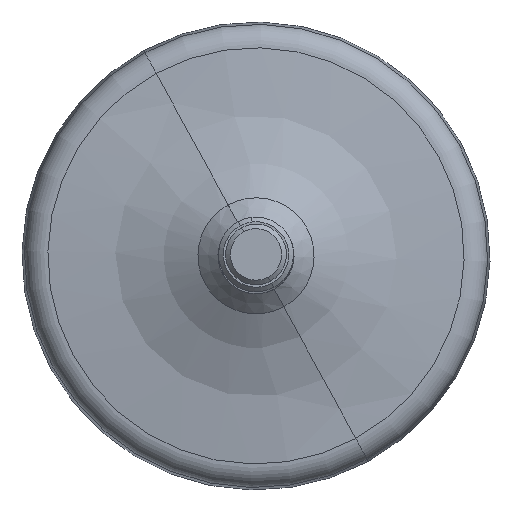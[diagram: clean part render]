
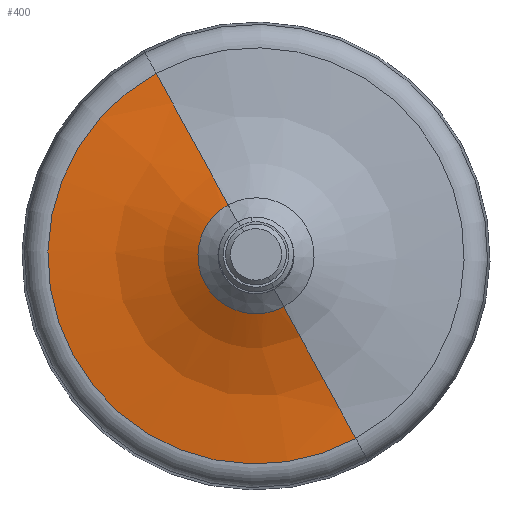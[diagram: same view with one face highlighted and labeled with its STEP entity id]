
A CAD part, top view. The second image highlights one B-rep face of the part: STEP entity #400.
In plain terms, the highlighted face is a revolution surface.
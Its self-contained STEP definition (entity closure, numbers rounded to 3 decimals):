
#238=CARTESIAN_POINT('Vertex',(-4.794,8.776,29.559)) ;
#245=CARTESIAN_POINT('Vertex',(4.794,-8.776,29.559)) ;
#265=CARTESIAN_POINT('Axis2P3D Location',(0.,0.,29.559)) ;
#350=CARTESIAN_POINT('Control Point',(-4.794,8.776,29.559)) ;
#351=CARTESIAN_POINT('Control Point',(-8.498,15.555,24.83)) ;
#352=CARTESIAN_POINT('Control Point',(-12.623,23.107,21.537)) ;
#353=CARTESIAN_POINT('Control Point',(-16.973,31.069,19.927)) ;
#354=CARTESIAN_POINT('Control Point',(-21.315,39.017,20.)) ;
#355=CARTESIAN_POINT('Vertex',(-21.315,39.017,20.)) ;
#359=CARTESIAN_POINT('Control Point',(4.794,-8.776,29.559)) ;
#360=CARTESIAN_POINT('Control Point',(8.498,-15.555,24.83)) ;
#361=CARTESIAN_POINT('Control Point',(12.623,-23.107,21.537)) ;
#362=CARTESIAN_POINT('Control Point',(16.973,-31.069,19.927)) ;
#363=CARTESIAN_POINT('Control Point',(21.315,-39.017,20.)) ;
#364=CARTESIAN_POINT('Vertex',(21.315,-39.017,20.)) ;
#380=CARTESIAN_POINT('Control Point',(-4.794,8.776,29.559)) ;
#381=CARTESIAN_POINT('Control Point',(-8.498,15.555,24.83)) ;
#382=CARTESIAN_POINT('Control Point',(-12.623,23.107,21.537)) ;
#383=CARTESIAN_POINT('Control Point',(-16.973,31.069,19.927)) ;
#384=CARTESIAN_POINT('Control Point',(-21.315,39.017,20.)) ;
#385=CARTESIAN_POINT('Axis1P Location',(0.,0.,84.998)) ;
#389=CARTESIAN_POINT('Axis2P3D Location',(0.,0.,20.)) ;
#266=DIRECTION('Axis2P3D Direction',(0.,0.,1.)) ;
#386=DIRECTION('Axis1P Direction',(0.,-0.,-1.)) ;
#390=DIRECTION('Axis2P3D Direction',(0.,-0.,-1.)) ;
#267=AXIS2_PLACEMENT_3D('Circle Axis2P3D',#265,#266,$) ;
#391=AXIS2_PLACEMENT_3D('Circle Axis2P3D',#389,#390,$) ;
#395=ORIENTED_EDGE('',*,*,#366,.T.) ;
#396=ORIENTED_EDGE('',*,*,#269,.F.) ;
#397=ORIENTED_EDGE('',*,*,#357,.F.) ;
#398=ORIENTED_EDGE('',*,*,#393,.T.) ;
#400=ADVANCED_FACE('PartBody',(#399),#388,.T.) ;
#387=AXIS1_PLACEMENT('Revolution Surface Axis1P',#385,#386) ;
#349=B_SPLINE_CURVE_WITH_KNOTS('',4,(#350,#351,#352,#353,#354),.UNSPECIFIED.,.F.,.U.,(5,5),(-137.804,-101.261),.UNSPECIFIED.) ;
#358=B_SPLINE_CURVE_WITH_KNOTS('',4,(#359,#360,#361,#362,#363),.UNSPECIFIED.,.F.,.U.,(5,5),(-137.804,-101.261),.UNSPECIFIED.) ;
#379=B_SPLINE_CURVE_WITH_KNOTS('',4,(#380,#381,#382,#383,#384),.UNSPECIFIED.,.F.,.U.,(5,5),(-137.804,-101.261),.UNSPECIFIED.) ;
#268=CIRCLE('generated circle',#267,10.) ;
#392=CIRCLE('generated circle',#391,44.46) ;
#269=EDGE_CURVE('',#239,#246,#268,.T.) ;
#357=EDGE_CURVE('',#356,#239,#349,.F.) ;
#366=EDGE_CURVE('',#365,#246,#358,.F.) ;
#393=EDGE_CURVE('',#356,#365,#392,.F.) ;
#394=EDGE_LOOP('',(#395,#396,#397,#398)) ;
#399=FACE_OUTER_BOUND('',#394,.T.) ;
#388=SURFACE_OF_REVOLUTION('Surface of Revolution',#379,#387) ;
#239=VERTEX_POINT('',#238) ;
#246=VERTEX_POINT('',#245) ;
#356=VERTEX_POINT('',#355) ;
#365=VERTEX_POINT('',#364) ;
